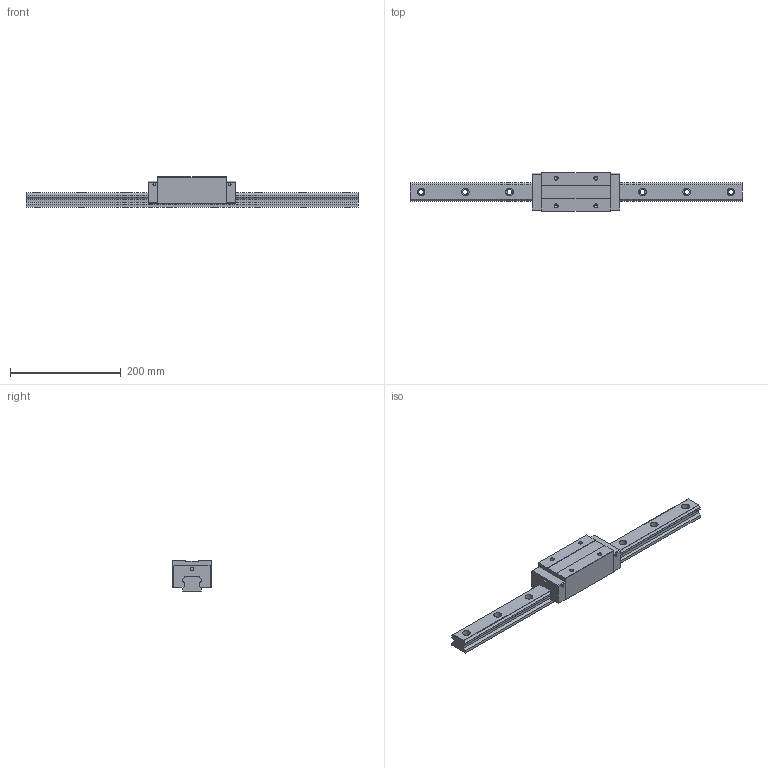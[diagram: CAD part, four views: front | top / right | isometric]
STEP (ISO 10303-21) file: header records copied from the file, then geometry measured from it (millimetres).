
FILE_DESCRIPTION (( 'STEP AP203' ), '1' );
FILE_NAME ('TRH35VE-SU.STEP', '2024-06-26T05:25:36', ( '' ), ( '' ), 'SwSTEP 2.0', 'SolidWorks 2022', '' );
FILE_SCHEMA (( 'CONFIG_CONTROL_DESIGN' ));
Length unit declared in the file: millimetre
Products named in the file (1): TRH35VE-SU
Bounding box: 600 x 70 x 55 mm (x, y, z)
Volume: 859970.2 mm3; surface area: 132672.4 mm2
Topology: 2 solids, 2 shells, 186 faces, 488 edges, 316 vertices
Faces by surface type: cylinder 88, plane 82, cone 16
Entity records: 5819 total; most frequent: DIRECTION 1038, CARTESIAN_POINT 983, ORIENTED_EDGE 960, EDGE_CURVE 480, AXIS2_PLACEMENT_3D 371, VERTEX_POINT 316, VECTOR 296, LINE 296
